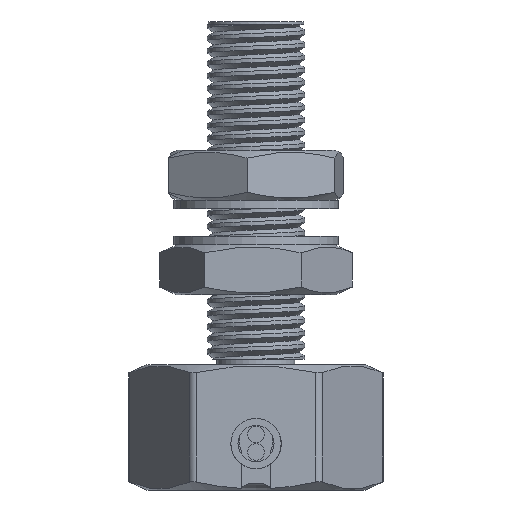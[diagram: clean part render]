
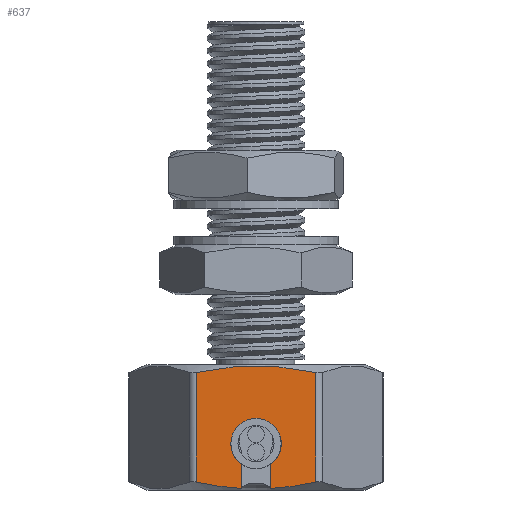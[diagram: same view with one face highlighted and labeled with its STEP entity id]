
A CAD part, front view. The second image highlights one B-rep face of the part: STEP entity #637.
In plain terms, the highlighted planar face has unit normal (0, -1, 0).
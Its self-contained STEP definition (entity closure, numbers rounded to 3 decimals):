
#4 = B_SPLINE_CURVE_WITH_KNOTS ( 'NONE', 3,
 ( #2256, #14336, #10209, #8952, #15723, #6146, #15897, #12964, #10330, #11821 ),
 .UNSPECIFIED., .F., .F.,
 ( 4, 2, 2, 2, 4 ),
 ( 0.007, 0.008, 0.009, 0.011, 0.012 ),
 .UNSPECIFIED. ) ;
#458 = CARTESIAN_POINT ( 'NONE',  ( -0.904, -4., -0.583 ) ) ;
#459 = DIRECTION ( 'NONE',  ( -1., 0., 0. ) ) ;
#637 = ADVANCED_FACE ( 'NONE', ( #15058 ), #15339, .F. ) ;
#682 = DIRECTION ( 'NONE',  ( 1., 0., 0. ) ) ;
#811 = CARTESIAN_POINT ( 'NONE',  ( 0., -4., -0.583 ) ) ;
#834 = DIRECTION ( 'NONE',  ( 0., 0., -1. ) ) ;
#885 = AXIS2_PLACEMENT_3D ( 'NONE', #11087, #10916, #1458 ) ;
#909 = VERTEX_POINT ( 'NONE', #15652 ) ;
#952 = CARTESIAN_POINT ( 'NONE',  ( -0.52, -4., -2.196 ) ) ;
#1011 = ORIENTED_EDGE ( 'NONE', *, *, #15208, .F. ) ;
#1115 = VERTEX_POINT ( 'NONE', #17379 ) ;
#1422 = EDGE_CURVE ( 'NONE', #15306, #15346, #10559, .T. ) ;
#1458 = DIRECTION ( 'NONE',  ( 1., 0., 0. ) ) ;
#1469 = CIRCLE ( 'NONE', #3384, 0.904 ) ;
#1561 = VERTEX_POINT ( 'NONE', #9046 ) ;
#1867 = CARTESIAN_POINT ( 'NONE',  ( 2.136, -4., -1.968 ) ) ;
#2252 = VERTEX_POINT ( 'NONE', #11875 ) ;
#2256 = CARTESIAN_POINT ( 'NONE',  ( 2.136, -4., 1.968 ) ) ;
#2273 = ORIENTED_EDGE ( 'NONE', *, *, #7061, .T. ) ;
#2705 = CARTESIAN_POINT ( 'NONE',  ( 2.136, -4., -1.968 ) ) ;
#3165 = CARTESIAN_POINT ( 'NONE',  ( -1.06, -4., -2.165 ) ) ;
#3384 = AXIS2_PLACEMENT_3D ( 'NONE', #11785, #5030, #3602 ) ;
#3535 = VECTOR ( 'NONE', #6634, 1000. ) ;
#3602 = DIRECTION ( 'NONE',  ( 1., 0., 0. ) ) ;
#3998 = ORIENTED_EDGE ( 'NONE', *, *, #13909, .F. ) ;
#3999 = LINE ( 'NONE', #15462, #13829 ) ;
#4103 = ORIENTED_EDGE ( 'NONE', *, *, #5777, .T. ) ;
#4740 = EDGE_CURVE ( 'NONE', #15346, #12667, #1469, .T. ) ;
#4919 = LINE ( 'NONE', #952, #9825 ) ;
#5030 = DIRECTION ( 'NONE',  ( 0., -1., 0. ) ) ;
#5753 = AXIS2_PLACEMENT_3D ( 'NONE', #811, #17066, #682 ) ;
#5777 = EDGE_CURVE ( 'NONE', #6190, #9887, #11561, .T. ) ;
#5818 = ORIENTED_EDGE ( 'NONE', *, *, #8621, .T. ) ;
#6146 = CARTESIAN_POINT ( 'NONE',  ( -0.357, -4., 2.212 ) ) ;
#6190 = VERTEX_POINT ( 'NONE', #7224 ) ;
#6313 = LINE ( 'NONE', #14824, #3535 ) ;
#6634 = DIRECTION ( 'NONE',  ( 0., 0., 1. ) ) ;
#6838 = LINE ( 'NONE', #13337, #17336 ) ;
#7061 = EDGE_CURVE ( 'NONE', #1561, #2252, #3999, .T. ) ;
#7085 = CARTESIAN_POINT ( 'NONE',  ( -2.309, -4., 2.25 ) ) ;
#7224 = CARTESIAN_POINT ( 'NONE',  ( 0.52, -4., -2.196 ) ) ;
#7268 = DIRECTION ( 'NONE',  ( 0., 1., 0. ) ) ;
#7791 = EDGE_LOOP ( 'NONE', ( #9025, #17595, #4103, #5818, #9442, #2273, #12719, #3998, #1011, #10099 ) ) ;
#7941 = DIRECTION ( 'NONE',  ( 0., 0., 1. ) ) ;
#8044 = EDGE_CURVE ( 'NONE', #2252, #1115, #11114, .T. ) ;
#8142 = CARTESIAN_POINT ( 'NONE',  ( 0.52, -4., -1.322 ) ) ;
#8621 = EDGE_CURVE ( 'NONE', #9887, #15717, #6313, .T. ) ;
#8797 = CARTESIAN_POINT ( 'NONE',  ( 1.604, -4., -2.082 ) ) ;
#8952 = CARTESIAN_POINT ( 'NONE',  ( 0.713, -4., 2.19 ) ) ;
#9025 = ORIENTED_EDGE ( 'NONE', *, *, #1422, .F. ) ;
#9046 = CARTESIAN_POINT ( 'NONE',  ( -2.136, -4., 1.968 ) ) ;
#9442 = ORIENTED_EDGE ( 'NONE', *, *, #15992, .T. ) ;
#9825 = VECTOR ( 'NONE', #834, 1000. ) ;
#9887 = VERTEX_POINT ( 'NONE', #2705 ) ;
#9950 = DIRECTION ( 'NONE',  ( 0., 0., -1. ) ) ;
#10099 = ORIENTED_EDGE ( 'NONE', *, *, #4740, .F. ) ;
#10153 = CARTESIAN_POINT ( 'NONE',  ( 2.136, -4., 1.968 ) ) ;
#10209 = CARTESIAN_POINT ( 'NONE',  ( 1.427, -4., 2.106 ) ) ;
#10330 = CARTESIAN_POINT ( 'NONE',  ( -1.784, -4., 2.044 ) ) ;
#10559 = CIRCLE ( 'NONE', #5753, 0.904 ) ;
#10681 = CARTESIAN_POINT ( 'NONE',  ( -2.136, -4., -1.968 ) ) ;
#10850 = CARTESIAN_POINT ( 'NONE',  ( 0.904, -4., -0.583 ) ) ;
#10916 = DIRECTION ( 'NONE',  ( 0., -1., 0. ) ) ;
#11087 = CARTESIAN_POINT ( 'NONE',  ( 0., -4., -0.583 ) ) ;
#11114 = B_SPLINE_CURVE_WITH_KNOTS ( 'NONE', 3,
 ( #10681, #15305, #3165, #12727 ),
 .UNSPECIFIED., .F., .F.,
 ( 4, 4 ),
 ( 0.004, 0.006 ),
 .UNSPECIFIED. ) ;
#11561 = B_SPLINE_CURVE_WITH_KNOTS ( 'NONE', 3,
 ( #16991, #12867, #8797, #1867 ),
 .UNSPECIFIED., .F., .F.,
 ( 4, 4 ),
 ( 0.007, 0.008 ),
 .UNSPECIFIED. ) ;
#11785 = CARTESIAN_POINT ( 'NONE',  ( 0., -4., -0.583 ) ) ;
#11821 = CARTESIAN_POINT ( 'NONE',  ( -2.136, -4., 1.968 ) ) ;
#11875 = CARTESIAN_POINT ( 'NONE',  ( -2.136, -4., -1.968 ) ) ;
#12350 = AXIS2_PLACEMENT_3D ( 'NONE', #7085, #7268, #459 ) ;
#12667 = VERTEX_POINT ( 'NONE', #458 ) ;
#12719 = ORIENTED_EDGE ( 'NONE', *, *, #8044, .T. ) ;
#12727 = CARTESIAN_POINT ( 'NONE',  ( -0.52, -4., -2.196 ) ) ;
#12867 = CARTESIAN_POINT ( 'NONE',  ( 1.06, -4., -2.165 ) ) ;
#12964 = CARTESIAN_POINT ( 'NONE',  ( -1.427, -4., 2.106 ) ) ;
#13337 = CARTESIAN_POINT ( 'NONE',  ( 0.52, -4., -2.196 ) ) ;
#13657 = CIRCLE ( 'NONE', #885, 0.904 ) ;
#13829 = VECTOR ( 'NONE', #9950, 1000. ) ;
#13909 = EDGE_CURVE ( 'NONE', #909, #1115, #4919, .T. ) ;
#14336 = CARTESIAN_POINT ( 'NONE',  ( 1.785, -4., 2.044 ) ) ;
#14365 = EDGE_CURVE ( 'NONE', #6190, #15306, #6838, .T. ) ;
#14824 = CARTESIAN_POINT ( 'NONE',  ( 2.136, -4., 2.25 ) ) ;
#15058 = FACE_OUTER_BOUND ( 'NONE', #7791, .T. ) ;
#15208 = EDGE_CURVE ( 'NONE', #12667, #909, #13657, .T. ) ;
#15305 = CARTESIAN_POINT ( 'NONE',  ( -1.603, -4., -2.083 ) ) ;
#15306 = VERTEX_POINT ( 'NONE', #8142 ) ;
#15339 = PLANE ( 'NONE',  #12350 ) ;
#15346 = VERTEX_POINT ( 'NONE', #10850 ) ;
#15462 = CARTESIAN_POINT ( 'NONE',  ( -2.136, -4., 2.25 ) ) ;
#15652 = CARTESIAN_POINT ( 'NONE',  ( -0.52, -4., -1.322 ) ) ;
#15717 = VERTEX_POINT ( 'NONE', #10153 ) ;
#15723 = CARTESIAN_POINT ( 'NONE',  ( 0.357, -4., 2.212 ) ) ;
#15897 = CARTESIAN_POINT ( 'NONE',  ( -0.713, -4., 2.19 ) ) ;
#15992 = EDGE_CURVE ( 'NONE', #15717, #1561, #4, .T. ) ;
#16991 = CARTESIAN_POINT ( 'NONE',  ( 0.52, -4., -2.196 ) ) ;
#17066 = DIRECTION ( 'NONE',  ( 0., -1., 0. ) ) ;
#17336 = VECTOR ( 'NONE', #7941, 1000. ) ;
#17379 = CARTESIAN_POINT ( 'NONE',  ( -0.52, -4., -2.196 ) ) ;
#17595 = ORIENTED_EDGE ( 'NONE', *, *, #14365, .F. ) ;
